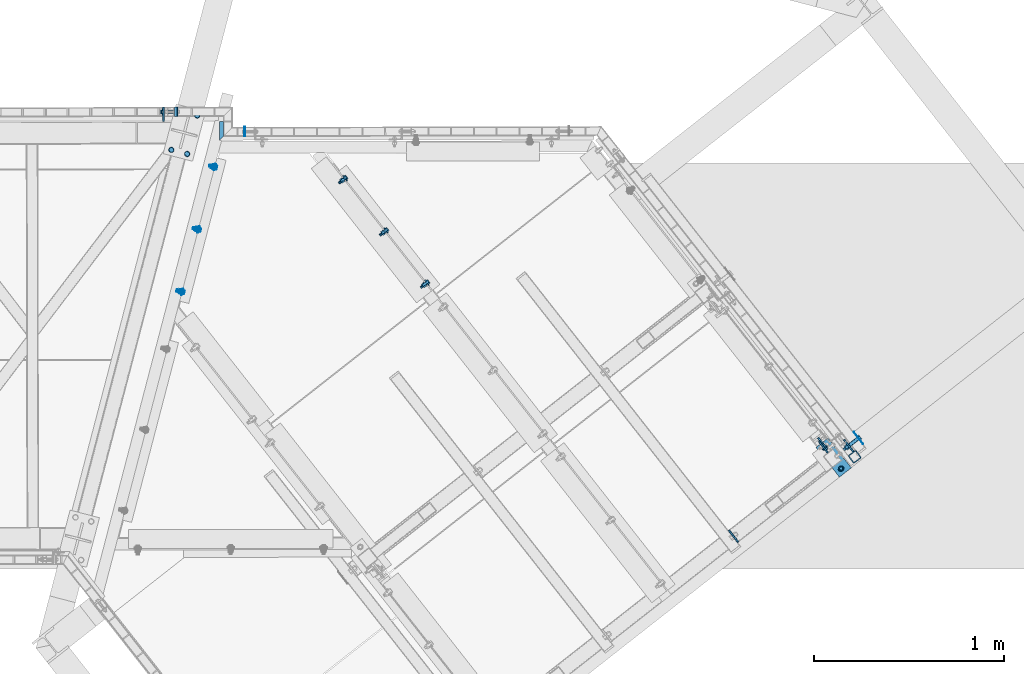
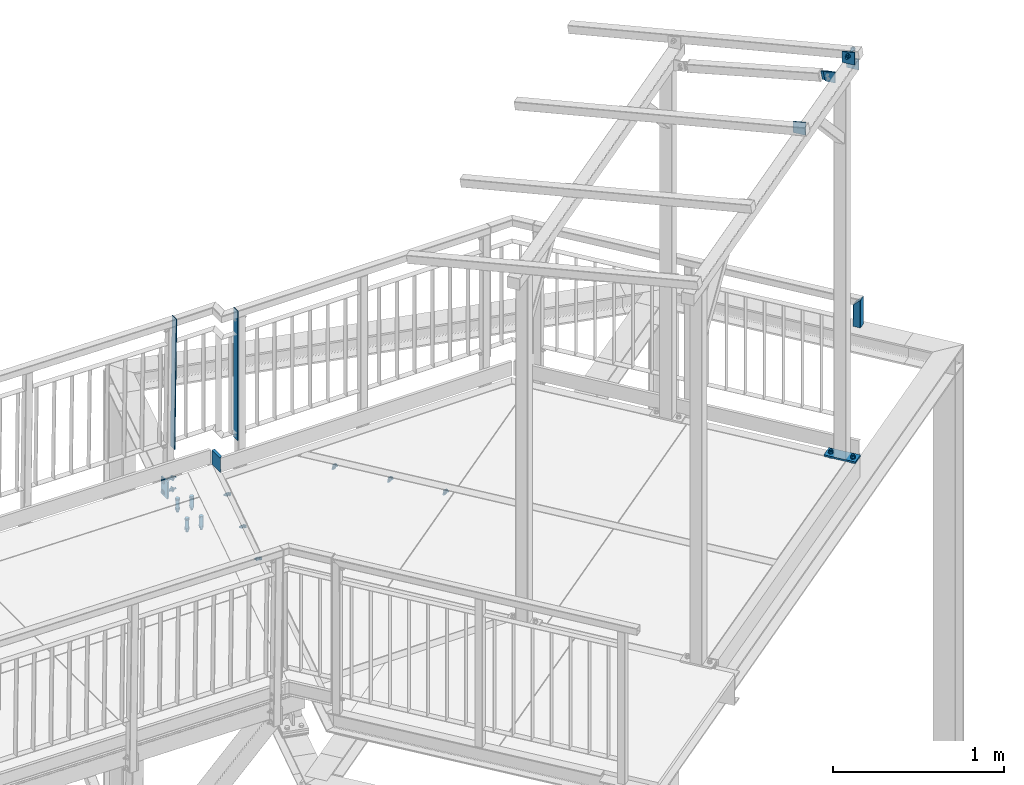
# One storey, part 127 of 169: 11 discrete accessories, 6 mechanical fasteners, 9 elements without a shape of their own.
"""IFC2X3 building model written with IfcOpenShell, lengths in millimetres."""

import ifcopenshell
import ifcopenshell.guid

model = None  # the IFC model being written
_history = None  # IfcOwnerHistory: only IFC2X3 demands one
_inside = {}  # id of a spatial element -> (the spatial element, [elements in it])
_under = {}  # id of a project, library or spatial element -> (it, [spatial elements below it])
_declared = {}  # id of a project -> (the project, [libraries it declares])
_typed = {}  # id of a type object -> (the type object, [elements of that type])
_made_of = {}  # id of a material, layer set ... -> (it, [elements and type objects made of it])


def new_model(schema):
    """Start an empty IFC model of exactly this schema.

    Asked for "IFC4X3", IfcOpenShell would pick the latest addendum, in which some entities
    have other attributes; the version numbers below select the first issue.
    IFC2X3 requires an IfcOwnerHistory on every rooted entity: one is made here for all.
    """
    global model, _history
    if schema == "IFC4X3":
        model = ifcopenshell.file(schema_version=(4, 3, 0, 0))
    else:
        model = ifcopenshell.file(schema=schema)
    _inside.clear()
    _under.clear()
    _declared.clear()
    _typed.clear()
    _made_of.clear()
    _history = None
    if model.schema == "IFC2X3":
        org = make("IfcOrganization", Name="unknown")
        user = make(
            "IfcPersonAndOrganization",
            ThePerson=make("IfcPerson", FamilyName="unknown"),
            TheOrganization=org,
        )
        app = make(
            "IfcApplication",
            ApplicationDeveloper=org,
            Version="unknown",
            ApplicationFullName="unknown",
            ApplicationIdentifier="unknown",
        )
        _history = make(
            "IfcOwnerHistory",
            OwningUser=user,
            OwningApplication=app,
            ChangeAction="ADDED",
            CreationDate=0,
        )
    return model


def make(cls, **values):
    """One entity of the class cls with the attributes given. An attribute that is None is left unset."""
    return model.create_entity(
        cls, **{name: value for name, value in values.items() if value is not None}
    )


def rooted(cls, **values):
    """An entity with a GlobalId (a new one), such as an element, a storey or a relation."""
    return make(cls, GlobalId=ifcopenshell.guid.new(), OwnerHistory=_history, **values)


def si_unit(unit_type, name, prefix=None):
    """IfcSIUnit, for example si_unit("LENGTHUNIT", "METRE", prefix="MILLI")."""
    return make("IfcSIUnit", UnitType=unit_type, Prefix=prefix, Name=name)


def assignment(units):
    """IfcUnitAssignment: the units of a project."""
    return None if units is None else make("IfcUnitAssignment", Units=units)


def point(xyz):
    """IfcCartesianPoint."""
    return None if xyz is None else make("IfcCartesianPoint", Coordinates=xyz)


def direction(xyz):
    """IfcDirection."""
    return None if xyz is None else make("IfcDirection", DirectionRatios=xyz)


def frame(location, z_axis=None, x_axis=None):
    """IfcAxis2Placement3D, a coordinate frame: its origin and axes. An axis left out is left unset."""
    return make(
        "IfcAxis2Placement3D",
        Location=point(location),
        Axis=direction(z_axis),
        RefDirection=direction(x_axis),
    )


def frame_2d(location, x_axis=None):
    """IfcAxis2Placement2D, a coordinate frame in the plane: its origin and x axis."""
    return make(
        "IfcAxis2Placement2D", Location=point(location), RefDirection=direction(x_axis)
    )


def origin_with_axes():
    """The frame at (0, 0, 0) with the z axis (0, 0, 1) and the x axis (1, 0, 0) written out."""
    return frame((0.0, 0.0, 0.0), z_axis=(0.0, 0.0, 1.0), x_axis=(1.0, 0.0, 0.0))


def origin_2d_with_axis():
    """The frame at (0, 0) in the plane with the x axis (1, 0) written out."""
    return frame_2d((0.0, 0.0), x_axis=(1.0, 0.0))


def place(relative_to, where):
    """IfcLocalPlacement: puts the frame where relative to a parent placement (None: the world)."""
    return make(
        "IfcLocalPlacement", PlacementRelTo=relative_to, RelativePlacement=where
    )


def context(
    kind, dimensions, precision=None, world=None, true_north=None, identifier=None
):
    """IfcGeometricRepresentationContext, for example the 3D "Model" context."""
    return make(
        "IfcGeometricRepresentationContext",
        ContextIdentifier=identifier,
        ContextType=kind,
        CoordinateSpaceDimension=dimensions,
        Precision=precision,
        WorldCoordinateSystem=world,
        TrueNorth=true_north,
    )


def subcontext(parent, identifier, kind, view, scale=None):
    """IfcGeometricRepresentationSubContext, for example "Body" below "Model"."""
    return make(
        "IfcGeometricRepresentationSubContext",
        ContextIdentifier=identifier,
        ContextType=kind,
        ParentContext=parent,
        TargetScale=scale,
        TargetView=view,
    )


def project(units=None, contexts=None):
    """IfcProject with its units and contexts."""
    return rooted(
        "IfcProject",
        Name="project",
        RepresentationContexts=contexts,
        UnitsInContext=assignment(units),
    )


def spatial(cls, under=None, at=None, **own):
    """A site, building, storey or space (cls), placed at a placement, below another one or the project."""
    s = rooted(cls, ObjectPlacement=at, **own)
    if under is not None:
        _under.setdefault(under.id(), (under, []))[1].append(s)
    return s


def polyline(points):
    """IfcPolyline through the points."""
    return make("IfcPolyline", Points=[point(p) for p in points])


def circle_curve(where, radius):
    """IfcCircle in the frame where."""
    return make("IfcCircle", Position=where, Radius=radius)


def parameter(value):
    """IfcParameterValue: where a trimmed curve begins or ends, as a parameter of its basis curve."""
    return model.create_entity("IfcParameterValue", value)


def trimmed(basis, trim1, trim2, sense, master):
    """IfcTrimmedCurve: the piece of a basis curve between two trims."""
    return make(
        "IfcTrimmedCurve",
        BasisCurve=basis,
        Trim1=trim1,
        Trim2=trim2,
        SenseAgreement=sense,
        MasterRepresentation=master,
    )


def segment(curve, same_sense, transition):
    """IfcCompositeCurveSegment."""
    return make(
        "IfcCompositeCurveSegment",
        Transition=transition,
        SameSense=same_sense,
        ParentCurve=curve,
    )


def composite_curve(segments, self_intersect=None):
    """IfcCompositeCurve: segments joined end to end."""
    return make("IfcCompositeCurve", Segments=segments, SelfIntersect=self_intersect)


def profile(cls, at=None, kind="AREA", **sizes):
    """A parametric profile (cls). Its sizes go by their IFC names, for example OverallWidth=200.0."""
    return make(cls, ProfileType=kind, Position=at, **sizes)


def hollow_rectangle(**sizes):
    """IfcRectangleHollowProfileDef."""
    return profile("IfcRectangleHollowProfileDef", **sizes)


def circle(**sizes):
    """IfcCircleProfileDef."""
    return profile("IfcCircleProfileDef", **sizes)


def u_section(**sizes):
    """IfcUShapeProfileDef."""
    return profile("IfcUShapeProfileDef", **sizes)


def outline(outer, holes=None, kind="AREA"):
    """IfcArbitraryClosedProfileDef: a profile drawn as a closed curve; with holes, ...WithVoids."""
    if holes is None:
        return make("IfcArbitraryClosedProfileDef", ProfileType=kind, OuterCurve=outer)
    return make(
        "IfcArbitraryProfileDefWithVoids",
        ProfileType=kind,
        OuterCurve=outer,
        InnerCurves=holes,
    )


def extrude(swept, where, along, depth):
    """IfcExtrudedAreaSolid: the profile swept, set in the frame where, extruded along a direction by depth."""
    return make(
        "IfcExtrudedAreaSolid",
        SweptArea=swept,
        Position=where,
        ExtrudedDirection=direction(along),
        Depth=depth,
    )


def clip(a, b, op="DIFFERENCE"):
    """IfcBooleanClippingResult: the solid a cut by the half space b."""
    return make(
        "IfcBooleanClippingResult", Operator=op, FirstOperand=a, SecondOperand=b
    )


def halfspace(plane, agree):
    """IfcHalfSpaceSolid: all space on one side of the plane z = 0 of the frame plane."""
    return make(
        "IfcHalfSpaceSolid",
        BaseSurface=make("IfcPlane", Position=plane),
        AgreementFlag=agree,
    )


def shape(context_of_items, identifier, shape_type, items):
    """IfcShapeRepresentation: the items that make up one representation, for example the "Body"."""
    return make(
        "IfcShapeRepresentation",
        ContextOfItems=context_of_items,
        RepresentationIdentifier=identifier,
        RepresentationType=shape_type,
        Items=items,
    )


def source(mapping_origin, context_of_items, identifier, shape_type, items):
    """IfcRepresentationMap: a shape defined once, which mapped items show again and again."""
    return make(
        "IfcRepresentationMap",
        MappingOrigin=mapping_origin,
        MappedRepresentation=shape(context_of_items, identifier, shape_type, items),
    )


def transform(
    local_origin,
    x_axis=None,
    y_axis=None,
    z_axis=None,
    scale=None,
    scale2=None,
    scale3=None,
    uniform=True,
):
    """IfcCartesianTransformationOperator3D, or its non-uniform kind. x_axis, y_axis, z_axis: its Axis1, 2, 3."""
    if uniform:
        return make(
            "IfcCartesianTransformationOperator3D",
            Axis1=direction(x_axis),
            Axis2=direction(y_axis),
            LocalOrigin=point(local_origin),
            Scale=scale,
            Axis3=direction(z_axis),
        )
    return make(
        "IfcCartesianTransformationOperator3DnonUniform",
        Axis1=direction(x_axis),
        Axis2=direction(y_axis),
        LocalOrigin=point(local_origin),
        Scale=scale,
        Axis3=direction(z_axis),
        Scale2=scale2,
        Scale3=scale3,
    )


def mapped(mapping_source, mapping_target):
    """IfcMappedItem: shows the shape of a source again, moved by a transform."""
    return make(
        "IfcMappedItem", MappingSource=mapping_source, MappingTarget=mapping_target
    )


def material(Name=None, Category=None):
    """IfcMaterial."""
    return make("IfcMaterial", Name=Name, Category=Category)


def made_of(thing, what):
    """Note that an element or type object is made of a material, layer set ...; save() writes the relation."""
    if what is not None:
        _made_of.setdefault(what.id(), (what, []))[1].append(thing)
    return thing


def type_object(cls, material=None, **own):
    """A type object (cls), such as IfcWallType, which elements share."""
    return made_of(rooted(cls, **own), material)


def element(
    cls,
    number,
    at=None,
    inside=None,
    cuts=None,
    type_object=None,
    material=None,
    context=None,
    identifier="Body",
    shape_type=None,
    held_by="IfcProductDefinitionShape",
    body=None,
    shapes=None,
    **own,
):
    """One element of the class cls, such as IfcWall. Its Tag is "e" and its number.

    at: its placement. inside: the storey or other place that contains it. cuts: it is an
    opening in that element (IfcRelVoidsElement). A single representation is given by context,
    identifier, shape_type and body (its items); several are given by shapes. held_by: the class
    of the entity that holds the representations. save() writes the other relations.
    """
    e = rooted(cls, Tag="e%d" % number, ObjectPlacement=at, **own)
    if body is not None:
        shapes = [shape(context, identifier, shape_type, body)]
    if shapes is not None:
        e.Representation = make(held_by, Representations=shapes)
    if inside is not None:
        _inside.setdefault(inside.id(), (inside, []))[1].append(e)
    if cuts is not None:
        rooted(
            "IfcRelVoidsElement", RelatingBuildingElement=cuts, RelatedOpeningElement=e
        )
    if type_object is not None:
        _typed.setdefault(type_object.id(), (type_object, []))[1].append(e)
    return made_of(e, material)


def aggregate(whole, parts):
    """IfcRelAggregates: a whole, such as a stair, and the parts it consists of."""
    return rooted("IfcRelAggregates", RelatingObject=whole, RelatedObjects=parts)


def save(model, path):
    """Write the relations noted so far, then the file.

    IfcRelAggregates (storeys below a building ...), IfcRelContainedInSpatialStructure (elements
    in a storey), IfcRelDefinesByType, IfcRelAssociatesMaterial and IfcRelDeclares: one each for
    every whole, place, type object, material and project.
    """
    for whole, parts in _under.values():
        aggregate(whole, parts)
    for where, things in _inside.values():
        rooted(
            "IfcRelContainedInSpatialStructure",
            RelatedElements=things,
            RelatingStructure=where,
        )
    for kind, things in _typed.values():
        rooted("IfcRelDefinesByType", RelatedObjects=things, RelatingType=kind)
    for what, things in _made_of.values():
        rooted("IfcRelAssociatesMaterial", RelatedObjects=things, RelatingMaterial=what)
    for by, libraries in _declared.values():
        rooted("IfcRelDeclares", RelatingContext=by, RelatedDefinitions=libraries)
    model.write(path)


model = new_model("IFC2X3")

# Units and contexts
model_context = context("Model", 3, precision=1e-05, world=origin_with_axes())
body_context = subcontext(model_context, "Body", "Model", "MODEL_VIEW")
ifc_project = project(units=[si_unit("LENGTHUNIT", "METRE", prefix="MILLI"), si_unit("AREAUNIT", "SQUARE_METRE"), si_unit("VOLUMEUNIT", "CUBIC_METRE"), si_unit("MASSUNIT", "GRAM", prefix="KILO"), si_unit("TIMEUNIT", "SECOND"), si_unit("PLANEANGLEUNIT", "RADIAN"), si_unit("SOLIDANGLEUNIT", "STERADIAN"), si_unit("THERMODYNAMICTEMPERATUREUNIT", "DEGREE_CELSIUS"), si_unit("LUMINOUSINTENSITYUNIT", "LUMEN")], contexts=[model_context])

# Site, building, storey
site_placement = place(None, origin_with_axes())
site = spatial("IfcSite", under=ifc_project, at=site_placement, Name="Undefined", CompositionType="ELEMENT")
building_placement = place(site_placement, origin_with_axes())
building = spatial("IfcBuilding", under=site, at=building_placement, Name="Undefined", CompositionType="ELEMENT")
storey_placement = place(building_placement, origin_with_axes())
storey = spatial("IfcBuildingStorey", under=building, at=storey_placement, Name="Undefined", CompositionType="ELEMENT", Elevation=0.0)

# Assembly, discrete accessory
assembly_1_placement = place(storey_placement, origin_with_axes())
assembly_1 = element("IfcElementAssembly", 1, at=assembly_1_placement, inside=storey, Name="Steel Assembly", AssemblyPlace="NOTDEFINED", PredefinedType="RIGID_FRAME")
ifc_material_1 = material(Name="STEEL/S235")
discrete_accessory_type_1 = type_object("IfcDiscreteAccessoryType", Name="BLACHA")
discrete_accessory_1_placement = place(assembly_1_placement, frame((18887.2000441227, 2340.23979561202, 13714.0845956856), z_axis=(0.9999174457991, 0.00186469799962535, -0.0127131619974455), x_axis=(-0.0018648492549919, 0.999998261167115, -4.2996762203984e-08)))
discrete_accessory_1 = element("IfcDiscreteAccessory", 2, at=discrete_accessory_1_placement, type_object=discrete_accessory_type_1, material=ifc_material_1, Name="BLACHA", ObjectType="BL10*120", context=body_context, shape_type="SweptSolid", body=[
    extrude(outline(polyline([(-5.35749222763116e-11, -59.9999999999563), (5.3567816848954e-11, 59.9999999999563), (75.0000002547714, 59.9999999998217), (75.0000002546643, -60.0000000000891), (-5.35749222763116e-11, -59.9999999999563)])), frame((-1.81898926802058e-12, -1.18000176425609e-16, -5.00000000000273), z_axis=(0.0, 0.0, 1.0), x_axis=(1.0, 0.0, 0.0)), (0.0, 0.0, 1.0), 10.0),
])
aggregate(assembly_1, [discrete_accessory_1])

# Assembly, discrete accessories
assembly_2_placement = place(storey_placement, origin_with_axes())
assembly_2 = element("IfcElementAssembly", 3, at=assembly_2_placement, inside=storey, Name="Steel Assembly", AssemblyPlace="NOTDEFINED", PredefinedType="RIGID_FRAME")
discrete_accessory_2_placement = place(assembly_2_placement, frame((18947.8099970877, 2415.35315881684, 13969.3328964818), z_axis=(-0.999917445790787, -0.00186469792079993, 0.0127131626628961), x_axis=(0.00186484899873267, -0.999998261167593, 4.28757666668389e-08)))
discrete_accessory_2 = element("IfcDiscreteAccessory", 4, at=discrete_accessory_2_placement, type_object=discrete_accessory_type_1, material=ifc_material_1, Name="BLACHA", ObjectType="BL5*50", context=body_context, shape_type="SweptSolid", body=[
    extrude(outline(polyline([(0.0, 0.0), (50.0000000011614, 3.27418092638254e-11), (50.0000000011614, 928.99999999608), (1.75657669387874e-06, 928.999999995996), (0.0, 0.0)])), frame((6.80888809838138e-19, -2.87858853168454e-21, -2.49999999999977), z_axis=(0.0, 0.0, 1.0), x_axis=(1.0, 0.0, 0.0)), (0.0, 0.0, 1.0), 5.0),
])
discrete_accessory_3_placement = place(assembly_2_placement, frame((19314.2063931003, 2310.53510697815, 13969.0826308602), z_axis=(-0.999998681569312, -0.00162384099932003, -2.17981851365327e-07), x_axis=(0.00162384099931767, -0.999998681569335, 1.10000109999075e-08)))
discrete_accessory_3 = element("IfcDiscreteAccessory", 5, at=discrete_accessory_3_placement, type_object=discrete_accessory_type_1, material=ifc_material_1, Name="BLACHA", ObjectType="BL5*50", context=body_context, shape_type="SweptSolid", body=[
    extrude(outline(polyline([(0.0, 0.0), (50.0000000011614, 3.27418092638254e-11), (50.0000000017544, 926.000000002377), (3.10365066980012e-08, 926.000000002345), (0.0, 0.0)])), frame((6.80888809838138e-19, -2.87858853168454e-21, -2.49999999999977), z_axis=(0.0, 0.0, 1.0), x_axis=(1.0, 0.0, 0.0)), (0.0, 0.0, 1.0), 5.0),
])

assembly_3_placement = place(storey_placement, origin_with_axes())
assembly_3 = element("IfcElementAssembly", 6, at=assembly_3_placement, inside=storey, Name="Steel Assembly", AssemblyPlace="NOTDEFINED", PredefinedType="RIGID_FRAME")
discrete_accessory_4_placement = place(assembly_3_placement, frame((22452.2278730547, 591.673954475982, 13802.4177777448), z_axis=(0.0, 0.0, 1.0), x_axis=(-0.7867732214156, -0.61724217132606, -1.0406294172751e-07)))
discrete_accessory_4 = element("IfcDiscreteAccessory", 7, at=discrete_accessory_4_placement, type_object=discrete_accessory_type_1, material=ifc_material_1, Name="BLACHA", ObjectType="BL12*200", context=body_context, shape_type="SweptSolid", body=[
    extrude(outline(polyline([(80.0, -100.00000000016), (-4.00177668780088e-11, -100.000000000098), (4.00177668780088e-11, 100.000000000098), (80.00000000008, 100.000000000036), (80.0, -100.00000000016)])), frame((-1.81898942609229e-12, -1.81898940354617e-12, -5.99999999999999), z_axis=(0.0, 0.0, 1.0), x_axis=(1.0, 0.0, 0.0)), (0.0, 0.0, 1.0), 12.0),
])
discrete_accessory_5_placement = place(assembly_3_placement, frame((22475.5309145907, 660.797179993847, 16540.2281754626), z_axis=(-0.7867732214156, -0.61724217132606, -1.0406294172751e-07), x_axis=(0.617242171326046, -0.786773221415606, 1.36000016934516e-07)))
discrete_accessory_5 = element("IfcDiscreteAccessory", 8, at=discrete_accessory_5_placement, type_object=discrete_accessory_type_1, material=ifc_material_1, Name="BLACHA", ObjectType="BL8*80", context=body_context, shape_type="SweptSolid", body=[
    extrude(outline(polyline([(0.0, 0.0), (80.0000000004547, 5.02041075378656e-10), (80.0000000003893, 89.9999999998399), (-2.08646997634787e-06, 77.0), (0.0, 0.0)])), frame((1.81942236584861e-12, -3.63797880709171e-12, -4.00000000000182), z_axis=(0.0, 0.0, 1.0), x_axis=(1.0, 0.0, 0.0)), (0.0, 0.0, 1.0), 8.0),
])
discrete_accessory_6_placement = place(assembly_3_placement, frame((21868.1419877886, 184.286223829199, 16540.2280951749), z_axis=(-0.7867732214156, -0.61724217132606, -1.0406294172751e-07), x_axis=(0.617242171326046, -0.786773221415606, 1.36000016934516e-07)))
discrete_accessory_6 = element("IfcDiscreteAccessory", 9, at=discrete_accessory_6_placement, type_object=discrete_accessory_type_1, material=ifc_material_1, Name="BLACHA", ObjectType="BL8*80", context=body_context, shape_type="SweptSolid", body=[
    extrude(outline(polyline([(0.0, 0.0), (80.0000000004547, 5.02041075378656e-10), (80.0000000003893, 89.9999999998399), (-2.08646997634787e-06, 77.0), (0.0, 0.0)])), frame((1.81942236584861e-12, -3.63797880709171e-12, -4.00000000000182), z_axis=(0.0, 0.0, 1.0), x_axis=(1.0, 0.0, 0.0)), (0.0, 0.0, 1.0), 8.0),
])

# Assembly, discrete accessory
assembly_4_placement = place(storey_placement, origin_with_axes())
assembly_4 = element("IfcElementAssembly", 10, at=assembly_4_placement, inside=storey, Name="Steel Assembly", AssemblyPlace="NOTDEFINED", PredefinedType="RIGID_FRAME")
discrete_accessory_7_placement = place(assembly_4_placement, frame((22380.5700340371, 618.208870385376, 16532.0863436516), z_axis=(0.786773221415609, 0.617242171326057, 0.0), x_axis=(0.111881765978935, -0.142611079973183, -0.983435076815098)))
discrete_accessory_7 = element("IfcDiscreteAccessory", 11, at=discrete_accessory_7_placement, type_object=discrete_accessory_type_1, material=ifc_material_1, Name="BLACHA", ObjectType="BL8*60", context=body_context, shape_type="SweptSolid", body=[
    extrude(outline(polyline([(0.0, 0.0), (60.0000000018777, -8.8220986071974e-11), (60.0000000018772, 69.999999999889), (1.4915713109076e-10, 69.9999999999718), (0.0, 0.0)])), frame((1.81942236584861e-12, -3.63797880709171e-12, -4.00000000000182), z_axis=(0.0, 0.0, 1.0), x_axis=(1.0, 0.0, 0.0)), (0.0, 0.0, 1.0), 8.0),
])
aggregate(assembly_4, [discrete_accessory_7])

# Discrete accessory
discrete_accessory_8_placement = place(assembly_3_placement, frame((22389.7726535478, 593.517792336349, 16539.2559338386), z_axis=(0.786773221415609, 0.617242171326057, 0.0), x_axis=(-2.54700353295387e-10, 0.0, -1.0)))
discrete_accessory_8 = element("IfcDiscreteAccessory", 12, at=discrete_accessory_8_placement, type_object=discrete_accessory_type_1, material=ifc_material_1, Name="BLACHA", ObjectType="BL8*75", context=body_context, shape_type="SweptSolid", body=[
    extrude(outline(polyline([(0.0, 0.0), (77.697319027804, 2.60843080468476e-09), (77.6973190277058, 62.949481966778), (13.7740383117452, 74.7314300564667), (0.0, 0.0)])), frame((1.81942236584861e-12, -3.63797880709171e-12, -4.00000000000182), z_axis=(0.0, 0.0, 1.0), x_axis=(1.0, 0.0, 0.0)), (0.0, 0.0, 1.0), 8.0),
])

discrete_accessory_9_placement = place(assembly_3_placement, frame((22576.4439343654, 638.284684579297, 16540.2281933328), z_axis=(-0.7867732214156, -0.61724217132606, -1.0406294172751e-07), x_axis=(-0.617242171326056, 0.786773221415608, 5.09999997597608e-08)))
discrete_accessory_9 = element("IfcDiscreteAccessory", 13, at=discrete_accessory_9_placement, type_object=discrete_accessory_type_1, material=ifc_material_1, Name="BLACHA", ObjectType="BL3*80", context=body_context, shape_type="SweptSolid", body=[
    extrude(outline(polyline([(0.0, 0.0), (80.0000000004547, 5.02041075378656e-10), (80.0000000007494, 80.0000000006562), (1.40171323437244e-08, 80.0000000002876), (0.0, 0.0)])), frame((1.81898940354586e-12, -1.77635442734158e-15, -1.50000000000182), z_axis=(0.0, 0.0, 1.0), x_axis=(1.0, 0.0, 0.0)), (0.0, 0.0, 1.0), 3.0),
])

discrete_accessory_type_2 = type_object("IfcDiscreteAccessoryType", Name="PORĘCZ")
discrete_accessory_10_placement = place(assembly_2_placement, frame((22531.6871376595, 571.395786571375, 14695.4177971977), z_axis=(0.0, 0.0, 1.0), x_axis=(-0.7867732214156, -0.61724217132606, -1.0406294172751e-07)))
discrete_accessory_10 = element("IfcDiscreteAccessory", 14, at=discrete_accessory_10_placement, type_object=discrete_accessory_type_2, material=ifc_material_1, Name="PORĘCZ", ObjectType="RHS50*3", context=body_context, shape_type="Clipping", body=[
    clip(extrude(hollow_rectangle(XDim=50.0, YDim=50.0, WallThickness=3.0, InnerFilletRadius=3.0, OuterFilletRadius=6.0, at=origin_2d_with_axis()), frame((-5.30057401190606e-21, 2.65028700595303e-21, 200.250024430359), z_axis=(-2.54700353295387e-10, 0.0, -1.0), x_axis=(0.0, 1.0, 0.0)), (0.0, 0.0, 1.0), 200.25), halfspace(frame((-3.71001078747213e-08, 25.00000000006, 200.000000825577), z_axis=(1.56689858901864e-10, 0.707106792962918, -0.707106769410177), x_axis=(-1.0, -3.46944695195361e-18, -1.38777878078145e-17)), True)),
])

aggregate(assembly_2, [discrete_accessory_2, discrete_accessory_3, discrete_accessory_10])

# Assembly, mechanical fastener
assembly_5_placement = place(storey_placement, origin_with_axes())
assembly_5 = element("IfcElementAssembly", 15, at=assembly_5_placement, inside=storey, Name="Steel Assembly", AssemblyPlace="NOTDEFINED", PredefinedType="RIGID_FRAME")
ifc_material_2 = material(Name="Undefined")
discrete_accessory_type_3 = type_object("IfcDiscreteAccessoryType", Name="Bolt assembly")
shared_shape_1 = source(origin_with_axes(), body_context, "Body", "SweptSolid", [
    extrude(circle(Radius=9.0, at=origin_2d_with_axis()), frame((0.0, -4.90000000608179, 0.0), z_axis=(0.0, 1.0, 0.0), x_axis=(1.0, 0.0, 0.0)), (0.0, 0.0, 1.0), 10.0),
    extrude(circle(Radius=9.0, at=origin_2d_with_axis()), frame((0.0, 4.89999999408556, 0.0), z_axis=(0.0, 1.0, 0.0), x_axis=(1.0, 0.0, 0.0)), (0.0, 0.0, 1.0), 50.1),
    extrude(outline(polyline([(10.39230484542, 0.0), (5.19615242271, 9.00000000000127), (-5.19615242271, 9.00000000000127), (-10.39230484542, 0.0), (-5.19615242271, -9.00000000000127), (5.19615242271, -9.00000000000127), (10.39230484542, 0.0)])), frame((0.0, -15.5000000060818, 0.0), z_axis=(0.0, 1.0, 0.0), x_axis=(1.0, 0.0, 0.0)), (0.0, 0.0, 1.0), 7.5),
    extrude(circle(Radius=6.0, at=origin_2d_with_axis()), frame((0.0, -8.00000000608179, 0.0), z_axis=(0.0, 1.0, 0.0), x_axis=(1.0, 0.0, 0.0)), (0.0, 0.0, 1.0), 90.0),
    extrude(circle(Radius=18.5, at=origin_2d_with_axis()), frame((0.0, -8.00000000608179, 0.0), z_axis=(0.0, 1.0, 0.0), x_axis=(1.0, 0.0, 0.0)), (0.0, 0.0, 1.0), 3.0),
    extrude(circle(Radius=18.5, at=origin_2d_with_axis()), frame((0.0, 54.9999999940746, 0.0), z_axis=(0.0, 1.0, 0.0), x_axis=(1.0, 0.0, 0.0)), (0.0, 0.0, 1.0), 3.0),
    extrude(outline(polyline([(10.96965511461, 0.0), (5.484827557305, 9.50000000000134), (-5.484827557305, 9.50000000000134), (-10.96965511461, 0.0), (-5.484827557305, -9.50000000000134), (5.484827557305, -9.50000000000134), (10.96965511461, 0.0)])), frame((0.0, 57.9999999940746, 0.0), z_axis=(0.0, 1.0, 0.0), x_axis=(1.0, 0.0, 0.0)), (0.0, 0.0, 1.0), 10.0),
])
mechanical_fastener_1_placement = place(assembly_5_placement, frame((18887.1131582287, 2390.23972797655, 13714.584553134), z_axis=(0.012712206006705, 0.000523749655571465, 0.999919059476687), x_axis=(0.00187120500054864, -0.999998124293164, 0.00050000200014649)))
mechanical_fastener_1 = element("IfcMechanicalFastener", 16, at=mechanical_fastener_1_placement, type_object=discrete_accessory_type_3, material=ifc_material_2, Name="Bolt assembly", NominalDiameter=12.0, NominalLength=90.0, context=body_context, shape_type="MappedRepresentation", body=[
    mapped(shared_shape_1, transform((-1.15463194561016e-14, 5.45696821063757e-11, -39.9999999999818))),
    mapped(shared_shape_1, transform((8.88178419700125e-15, -5.54791768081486e-11, 39.99999999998))),
])
aggregate(assembly_5, [mechanical_fastener_1])

assembly_6_placement = place(storey_placement, origin_with_axes())
assembly_6 = element("IfcElementAssembly", 17, at=assembly_6_placement, inside=storey, Name="Steel Assembly", AssemblyPlace="NOTDEFINED", PredefinedType="RIGID_FRAME")
shared_shape_2 = source(origin_with_axes(), body_context, "Body", "SweptSolid", [
    extrude(circle(Radius=13.0, at=origin_2d_with_axis()), frame((0.0, 0.100000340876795, 0.0), z_axis=(0.0, 1.0, 0.0), x_axis=(1.0, 0.0, 0.0)), (0.0, 0.0, 1.0), 15.0),
    extrude(circle(Radius=13.0, at=origin_2d_with_axis()), frame((0.0, 14.9999935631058, 0.0), z_axis=(0.0, 1.0, 0.0), x_axis=(1.0, 0.0, 0.0)), (0.0, 0.0, 1.0), 15.0),
    extrude(circle(Radius=13.0, at=origin_2d_with_axis()), frame((0.0, 29.9999930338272, 0.0), z_axis=(0.0, 1.0, 0.0), x_axis=(1.0, 0.0, 0.0)), (0.0, 0.0, 1.0), 5.0),
    extrude(circle(Radius=13.0, at=origin_2d_with_axis()), frame((0.0, 34.9999929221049, 0.0), z_axis=(0.0, 1.0, 0.0), x_axis=(1.0, 0.0, 0.0)), (0.0, 0.0, 1.0), 5.0),
    extrude(circle(Radius=13.0, at=origin_2d_with_axis()), frame((0.0, 39.9999928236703, 0.0), z_axis=(0.0, 1.0, 0.0), x_axis=(1.0, 0.0, 0.0)), (0.0, 0.0, 1.0), 5.0),
    extrude(circle(Radius=13.0, at=origin_2d_with_axis()), frame((0.0, 44.6892662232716, 0.0), z_axis=(0.0, 1.0, 0.0), x_axis=(1.0, 0.0, 0.0)), (0.0, 0.0, 1.0), 12.1),
    extrude(outline(polyline([(13.85640646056, 0.0), (6.92820323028, 12.0000000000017), (-6.92820323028, 12.0000000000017), (-13.85640646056, 0.0), (-6.92820323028, -12.0000000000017), (6.92820323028, -12.0000000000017), (13.85640646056, 0.0)])), frame((0.0, -13.0000060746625, 0.0), z_axis=(0.0, 1.0, 0.0), x_axis=(1.0, 0.0, 0.0)), (0.0, 0.0, 1.0), 10.0),
    extrude(circle(Radius=8.0, at=origin_2d_with_axis()), frame((0.0, -3.00000607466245, 0.0), z_axis=(0.0, 1.0, 0.0), x_axis=(1.0, 0.0, 0.0)), (0.0, 0.0, 1.0), 90.0),
    extrude(circle(Radius=15.0, at=origin_2d_with_axis()), frame((0.0, -3.00000607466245, 0.0), z_axis=(0.0, 1.0, 0.0), x_axis=(1.0, 0.0, 0.0)), (0.0, 0.0, 1.0), 3.0),
    extrude(circle(Radius=15.0, at=origin_2d_with_axis()), frame((0.0, 56.7892662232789, 0.0), z_axis=(0.0, 1.0, 0.0), x_axis=(1.0, 0.0, 0.0)), (0.0, 0.0, 1.0), 3.0),
    extrude(outline(polyline([(13.85640646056, 0.0), (6.92820323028, 12.0000000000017), (-6.92820323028, 12.0000000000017), (-13.85640646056, 0.0), (-6.92820323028, -12.0000000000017), (6.92820323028, -12.0000000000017), (13.85640646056, 0.0)])), frame((0.0, 59.7892662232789, 0.0), z_axis=(0.0, 1.0, 0.0), x_axis=(1.0, 0.0, 0.0)), (0.0, 0.0, 1.0), 13.0),
])
mechanical_fastener_2_placement = place(assembly_6_placement, frame((19037.7878217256, 2269.57147753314, 13585.2064065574), z_axis=(-0.252628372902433, -0.967563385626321, 0.0), x_axis=(-0.967563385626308, 0.252628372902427, -1.72000000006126e-07)))
mechanical_fastener_2 = element("IfcMechanicalFastener", 18, at=mechanical_fastener_2_placement, type_object=discrete_accessory_type_3, material=ifc_material_2, Name="Bolt assembly", NominalDiameter=16.0, NominalLength=90.0, context=body_context, shape_type="MappedRepresentation", body=[
    mapped(shared_shape_2, transform((-3.63797880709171e-12, 4.00177668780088e-11, -104.999999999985))),
    mapped(shared_shape_2, transform((86.0000000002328, -2.45563569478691e-10, -104.999999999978))),
    mapped(shared_shape_2, transform((7.27595761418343e-12, -4.18367562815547e-11, 104.999999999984))),
    mapped(shared_shape_2, transform((86.0000000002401, -3.27418092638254e-10, 104.999999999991))),
])
aggregate(assembly_6, [mechanical_fastener_2])

# Assembly, discrete accessory
assembly_7_placement = place(storey_placement, origin_with_axes())
assembly_7 = element("IfcElementAssembly", 19, at=assembly_7_placement, inside=storey, Name="Steel Assembly", AssemblyPlace="NOTDEFINED", PredefinedType="RIGID_FRAME")
ifc_material_3 = material(Name="STEEL/S235JR")
discrete_accessory_type_4 = type_object("IfcDiscreteAccessoryType", Name="KICK_PLATE")
discrete_accessory_11_placement = place(assembly_7_placement, frame((19192.5287873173, 2240.33700210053, 13850.4171753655), z_axis=(0.0, 0.0, 1.0), x_axis=(-0.00172596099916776, 0.999998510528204, -4.30000000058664e-08)))
discrete_accessory_11 = element("IfcDiscreteAccessory", 20, at=discrete_accessory_11_placement, type_object=discrete_accessory_type_4, material=ifc_material_3, Name="KICK_PLATE", ObjectType="C100*20*2", context=body_context, shape_type="Clipping", body=[
    clip(extrude(u_section(Depth=100.0, FlangeWidth=20.0, WebThickness=2.0, FlangeThickness=2.0, FilletRadius=3.0, at=origin_2d_with_axis()), frame((99.9999999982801, 3.63798853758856e-12, 1.8189894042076e-12), z_axis=(-1.0, -3.46944695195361e-18, -1.38777878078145e-17), x_axis=(1.73472347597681e-18, -1.0, 0.0)), (0.0, 0.0, 1.0), 100.17), halfspace(frame((19.9989812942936, -10.0000000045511, -5.02041075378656e-10), z_axis=(-0.707142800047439, -0.707070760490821, 2.02555520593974e-10), x_axis=(-2.54700353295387e-10, 0.0, -1.0)), False)),
])
aggregate(assembly_7, [discrete_accessory_11])

# Assembly, mechanical fastener
assembly_8_placement = place(storey_placement, origin_with_axes())
assembly_8 = element("IfcElementAssembly", 21, at=assembly_8_placement, inside=storey, Name="Steel Assembly", AssemblyPlace="NOTDEFINED", PredefinedType="RIGID_FRAME")
shared_shape_3 = source(origin_with_axes(), body_context, "Body", "SweptSolid", [
    extrude(circle(Radius=7.5, at=origin_2d_with_axis()), frame((0.0, 2.84017219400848, 0.0), z_axis=(0.0, 1.0, 0.0), x_axis=(1.0, 0.0, 0.0)), (0.0, 0.0, 1.0), 7.1),
    extrude(outline(composite_curve([segment(polyline([(-10.0, 7.5), (10.0, 7.5)]), True, "CONTINUOUS"), segment(trimmed(circle_curve(frame_2d((10.0, 0.0), x_axis=(0.0, 1.0)), 7.5), [parameter(0.0)], [parameter(3.14159265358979)], False, "PARAMETER"), True, "CONTINUOUS"), segment(polyline([(10.0, -7.5), (-10.0, -7.5)]), True, "CONTINUOUS"), segment(trimmed(circle_curve(frame_2d((-10.0, 0.0), x_axis=(0.0, -1.0)), 7.5), [parameter(0.0)], [parameter(3.14159265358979)], False, "PARAMETER"), True, "DISCONTINUOUS")], self_intersect=False)), frame((0.0, 0.100000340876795, 0.0), z_axis=(0.0, 1.0, 0.0), x_axis=(1.0, 0.0, 0.0)), (0.0, 0.0, 1.0), 3.0),
    extrude(outline(polyline([(10.39230484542, 0.0), (5.19615242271, 9.00000000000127), (-5.19615242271, 9.00000000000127), (-10.39230484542, 0.0), (-5.19615242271, -9.00000000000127), (5.19615242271, -9.00000000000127), (10.39230484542, 0.0)])), frame((0.0, -10.4999989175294, 0.0), z_axis=(0.0, 1.0, 0.0), x_axis=(1.0, 0.0, 0.0)), (0.0, 0.0, 1.0), 7.5),
    extrude(circle(Radius=6.0, at=origin_2d_with_axis()), frame((0.0, -3.00000607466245, 0.0), z_axis=(0.0, 1.0, 0.0), x_axis=(1.0, 0.0, 0.0)), (0.0, 0.0, 1.0), 35.0),
    extrude(circle(Radius=12.0, at=origin_2d_with_axis()), frame((0.0, -3.00000607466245, 0.0), z_axis=(0.0, 1.0, 0.0), x_axis=(1.0, 0.0, 0.0)), (0.0, 0.0, 1.0), 3.0),
    extrude(circle(Radius=12.0, at=origin_2d_with_axis()), frame((0.0, 9.94017219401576, 0.0), z_axis=(0.0, 1.0, 0.0), x_axis=(1.0, 0.0, 0.0)), (0.0, 0.0, 1.0), 3.0),
    extrude(outline(polyline([(10.96965511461, 0.0), (5.484827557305, 9.50000000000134), (-5.484827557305, 9.50000000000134), (-10.96965511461, 0.0), (-5.484827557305, -9.50000000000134), (5.484827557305, -9.50000000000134), (10.96965511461, 0.0)])), frame((0.0, 12.9401721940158, 0.0), z_axis=(0.0, 1.0, 0.0), x_axis=(1.0, 0.0, 0.0)), (0.0, 0.0, 1.0), 10.0),
])
mechanical_fastener_3_placement = place(assembly_8_placement, frame((18987.2007488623, 1439.9769740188, 13740.4179521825), z_axis=(0.0, 0.0, 1.0), x_axis=(0.252628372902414, 0.967563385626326, 0.0)))
mechanical_fastener_3 = element("IfcMechanicalFastener", 22, at=mechanical_fastener_3_placement, type_object=discrete_accessory_type_3, material=ifc_material_2, Name="Bolt assembly", NominalDiameter=12.0, NominalLength=35.0, context=body_context, shape_type="MappedRepresentation", body=[
    mapped(shared_shape_3, transform((0.0, 0.0, 0.0))),
    mapped(shared_shape_3, transform((339.999999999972, 4.00177668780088e-11, 3.63797880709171e-11))),
    mapped(shared_shape_3, transform((679.999999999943, 8.36735125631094e-11, 7.09405867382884e-11))),
])
aggregate(assembly_8, [mechanical_fastener_3])

assembly_9_placement = place(storey_placement, origin_with_axes())
assembly_9 = element("IfcElementAssembly", 23, at=assembly_9_placement, inside=storey, Name="Steel Assembly", AssemblyPlace="NOTDEFINED", PredefinedType="RIGID_FRAME")
shared_shape_4 = source(origin_with_axes(), body_context, "Body", "SweptSolid", [
    extrude(circle(Radius=7.5, at=origin_2d_with_axis()), frame((0.0, 2.94991391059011, 0.0), z_axis=(0.0, 1.0, 0.0), x_axis=(1.0, 0.0, 0.0)), (0.0, 0.0, 1.0), 7.0),
    extrude(outline(composite_curve([segment(polyline([(-10.0, 7.5), (10.0, 7.5)]), True, "CONTINUOUS"), segment(trimmed(circle_curve(frame_2d((10.0, 0.0), x_axis=(0.0, 1.0)), 7.5), [parameter(0.0)], [parameter(3.14159265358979)], False, "PARAMETER"), True, "CONTINUOUS"), segment(polyline([(10.0, -7.5), (-10.0, -7.5)]), True, "CONTINUOUS"), segment(trimmed(circle_curve(frame_2d((-10.0, 0.0), x_axis=(0.0, -1.0)), 7.5), [parameter(0.0)], [parameter(3.14159265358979)], False, "PARAMETER"), True, "DISCONTINUOUS")], self_intersect=False)), frame((0.0, 0.100000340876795, 0.0), z_axis=(0.0, 1.0, 0.0), x_axis=(1.0, 0.0, 0.0)), (0.0, 0.0, 1.0), 3.0),
    extrude(circle(Radius=7.5, at=origin_2d_with_axis()), frame((0.0, 9.84991653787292, 0.0), z_axis=(0.0, 1.0, 0.0), x_axis=(1.0, 0.0, 0.0)), (0.0, 0.0, 1.0), 5.1),
    extrude(outline(polyline([(10.39230484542, 0.0), (5.19615242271, 9.00000000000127), (-5.19615242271, 9.00000000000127), (-10.39230484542, 0.0), (-5.19615242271, -9.00000000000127), (5.19615242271, -9.00000000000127), (10.39230484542, 0.0)])), frame((0.0, -10.4999989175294, 0.0), z_axis=(0.0, 1.0, 0.0), x_axis=(1.0, 0.0, 0.0)), (0.0, 0.0, 1.0), 7.5),
    extrude(circle(Radius=6.0, at=origin_2d_with_axis()), frame((0.0, -3.00000607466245, 0.0), z_axis=(0.0, 1.0, 0.0), x_axis=(1.0, 0.0, 0.0)), (0.0, 0.0, 1.0), 45.0),
    extrude(circle(Radius=12.0, at=origin_2d_with_axis()), frame((0.0, -3.00000607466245, 0.0), z_axis=(0.0, 1.0, 0.0), x_axis=(1.0, 0.0, 0.0)), (0.0, 0.0, 1.0), 3.0),
    extrude(circle(Radius=12.0, at=origin_2d_with_axis()), frame((0.0, 14.9499165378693, 0.0), z_axis=(0.0, 1.0, 0.0), x_axis=(1.0, 0.0, 0.0)), (0.0, 0.0, 1.0), 3.0),
    extrude(outline(polyline([(10.96965511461, 0.0), (5.484827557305, 9.50000000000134), (-5.484827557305, 9.50000000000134), (-10.96965511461, 0.0), (-5.484827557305, -9.50000000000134), (5.484827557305, -9.50000000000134), (10.96965511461, 0.0)])), frame((0.0, 17.9499165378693, 0.0), z_axis=(0.0, 1.0, 0.0), x_axis=(1.0, 0.0, 0.0)), (0.0, 0.0, 1.0), 10.0),
])
mechanical_fastener_4_placement = place(assembly_9_placement, frame((20276.5906461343, 1490.32128362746, 13740.4179309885), z_axis=(0.0, 0.0, 1.0), x_axis=(-0.617242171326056, 0.786773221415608, 5.09999997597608e-08)))
mechanical_fastener_4 = element("IfcMechanicalFastener", 24, at=mechanical_fastener_4_placement, type_object=discrete_accessory_type_3, material=ifc_material_2, Name="Bolt assembly", NominalDiameter=12.0, NominalLength=45.0, context=body_context, shape_type="MappedRepresentation", body=[
    mapped(shared_shape_4, transform((0.0, 0.0, 0.0))),
    mapped(shared_shape_4, transform((350.000000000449, -1.43700162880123e-10, 1.19871401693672e-09))),
    mapped(shared_shape_4, transform((699.999999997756, 1.81898938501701e-12, -3.03576608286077e-16))),
])
aggregate(assembly_9, [mechanical_fastener_4])

# Mechanical fastener
shared_shape_5 = source(origin_with_axes(), body_context, "Body", "SweptSolid", [
    extrude(circle(Radius=9.5, at=origin_2d_with_axis()), frame((0.0, -11.3999999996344, 0.0), z_axis=(0.0, 1.0, 0.0), x_axis=(1.0, 0.0, 0.0)), (0.0, 0.0, 1.0), 10.0),
    extrude(outline(composite_curve([segment(polyline([(-7.5, 9.5), (7.5, 9.5)]), True, "CONTINUOUS"), segment(trimmed(circle_curve(frame_2d((7.5, 0.0), x_axis=(0.0, 1.0)), 9.5), [parameter(0.0)], [parameter(3.14159265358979)], False, "PARAMETER"), True, "CONTINUOUS"), segment(polyline([(7.5, -9.5), (-7.5, -9.5)]), True, "CONTINUOUS"), segment(trimmed(circle_curve(frame_2d((-7.5, 0.0), x_axis=(0.0, -1.0)), 9.5), [parameter(0.0)], [parameter(3.14159265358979)], False, "PARAMETER"), True, "DISCONTINUOUS")], self_intersect=False)), frame((0.0, -0.600000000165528, 0.0), z_axis=(0.0, 1.0, 0.0), x_axis=(1.0, 0.0, 0.0)), (0.0, 0.0, 1.0), 12.1),
    extrude(outline(polyline([(13.85640646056, 0.0), (6.92820323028, 12.0000000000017), (-6.92820323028, 12.0000000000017), (-13.85640646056, 0.0), (-6.92820323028, -12.0000000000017), (6.92820323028, -12.0000000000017), (13.85640646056, 0.0)])), frame((0.0, -24.4999999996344, 0.0), z_axis=(0.0, 1.0, 0.0), x_axis=(1.0, 0.0, 0.0)), (0.0, 0.0, 1.0), 10.0),
    extrude(circle(Radius=8.0, at=origin_2d_with_axis()), frame((0.0, -14.4999999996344, 0.0), z_axis=(0.0, 1.0, 0.0), x_axis=(1.0, 0.0, 0.0)), (0.0, 0.0, 1.0), 50.0),
    extrude(circle(Radius=15.0, at=origin_2d_with_axis()), frame((0.0, -14.4999999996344, 0.0), z_axis=(0.0, 1.0, 0.0), x_axis=(1.0, 0.0, 0.0)), (0.0, 0.0, 1.0), 3.0),
    extrude(circle(Radius=15.0, at=origin_2d_with_axis()), frame((0.0, 11.4999999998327, 0.0), z_axis=(0.0, 1.0, 0.0), x_axis=(1.0, 0.0, 0.0)), (0.0, 0.0, 1.0), 3.0),
    extrude(outline(polyline([(13.85640646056, 0.0), (6.92820323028, 12.0000000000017), (-6.92820323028, 12.0000000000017), (-13.85640646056, 0.0), (-6.92820323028, -12.0000000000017), (6.92820323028, -12.0000000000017), (13.85640646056, 0.0)])), frame((0.0, 14.4999999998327, 0.0), z_axis=(0.0, 1.0, 0.0), x_axis=(1.0, 0.0, 0.0)), (0.0, 0.0, 1.0), 13.0),
])
mechanical_fastener_5_placement = place(assembly_3_placement, frame((22393.2198823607, 545.380791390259, 13796.917769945), z_axis=(0.617242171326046, -0.786773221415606, 1.36000016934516e-07), x_axis=(0.786773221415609, 0.617242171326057, 0.0)))
mechanical_fastener_5 = element("IfcMechanicalFastener", 25, at=mechanical_fastener_5_placement, type_object=discrete_accessory_type_3, material=ifc_material_2, Name="Bolt assembly", NominalDiameter=16.0, NominalLength=50.0, context=body_context, shape_type="MappedRepresentation", body=[
    mapped(shared_shape_5, transform((29.9999999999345, -2.72848410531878e-11, -70.0000000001))),
    mapped(shared_shape_5, transform((30.0000000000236, 4.00177668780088e-11, 69.9999999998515))),
])

shared_shape_6 = source(origin_with_axes(), body_context, "Body", "SweptSolid", [
    extrude(circle(Radius=9.5, at=origin_2d_with_axis()), frame((0.0, -47.8999963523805, 0.0), z_axis=(0.0, 1.0, 0.0), x_axis=(1.0, 0.0, 0.0)), (0.0, 0.0, 1.0), 60.0),
    extrude(outline(composite_curve([segment(polyline([(9.5, 7.5), (9.5, -7.5)]), True, "CONTINUOUS"), segment(trimmed(circle_curve(frame_2d((0.0, -7.5), x_axis=(1.0, 0.0)), 9.5), [parameter(0.0)], [parameter(3.14159265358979)], False, "PARAMETER"), True, "CONTINUOUS"), segment(polyline([(-9.5, -7.5), (-9.5, 7.5)]), True, "CONTINUOUS"), segment(trimmed(circle_curve(frame_2d((0.0, 7.5), x_axis=(-1.0, 0.0)), 9.5), [parameter(0.0)], [parameter(3.14159265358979)], False, "PARAMETER"), True, "DISCONTINUOUS")], self_intersect=False)), frame((0.0, 11.899975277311, 0.0), z_axis=(0.0, 1.0, 0.0), x_axis=(1.0, 0.0, 0.0)), (0.0, 0.0, 1.0), 8.1),
    extrude(outline(polyline([(13.85640646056, 0.0), (6.92820323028, 12.0000000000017), (-6.92820323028, 12.0000000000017), (-13.85640646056, 0.0), (-6.92820323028, -12.0000000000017), (6.92820323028, -12.0000000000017), (13.85640646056, 0.0)])), frame((0.0, -60.9999963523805, 0.0), z_axis=(0.0, 1.0, 0.0), x_axis=(1.0, 0.0, 0.0)), (0.0, 0.0, 1.0), 10.0),
    extrude(circle(Radius=8.0, at=origin_2d_with_axis()), frame((0.0, -50.9999963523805, 0.0), z_axis=(0.0, 1.0, 0.0), x_axis=(1.0, 0.0, 0.0)), (0.0, 0.0, 1.0), 100.0),
    extrude(circle(Radius=15.0, at=origin_2d_with_axis()), frame((0.0, -50.9999963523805, 0.0), z_axis=(0.0, 1.0, 0.0), x_axis=(1.0, 0.0, 0.0)), (0.0, 0.0, 1.0), 3.0),
    extrude(circle(Radius=15.0, at=origin_2d_with_axis()), frame((0.0, 19.9999989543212, 0.0), z_axis=(0.0, 1.0, 0.0), x_axis=(1.0, 0.0, 0.0)), (0.0, 0.0, 1.0), 3.0),
    extrude(outline(polyline([(13.85640646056, 0.0), (6.92820323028, 12.0000000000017), (-6.92820323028, 12.0000000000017), (-13.85640646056, 0.0), (-6.92820323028, -12.0000000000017), (6.92820323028, -12.0000000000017), (13.85640646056, 0.0)])), frame((0.0, 22.9999989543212, 0.0), z_axis=(0.0, 1.0, 0.0), x_axis=(1.0, 0.0, 0.0)), (0.0, 0.0, 1.0), 13.0),
])
mechanical_fastener_6_placement = place(assembly_3_placement, frame((22512.8072062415, 639.204366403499, 16598.2254462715), z_axis=(4.23070098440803e-05, -5.39270125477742e-05, -0.999999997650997), x_axis=(0.617242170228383, -0.786773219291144, 6.8542000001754e-05)))
mechanical_fastener_6 = element("IfcMechanicalFastener", 26, at=mechanical_fastener_6_placement, type_object=discrete_accessory_type_3, material=ifc_material_2, Name="Bolt assembly", NominalDiameter=16.0, NominalLength=100.0, context=body_context, shape_type="MappedRepresentation", body=[
    mapped(shared_shape_6, transform((0.0, 0.0, 0.0))),
])

aggregate(assembly_3, [mechanical_fastener_5, discrete_accessory_4, mechanical_fastener_6, discrete_accessory_5, discrete_accessory_6, discrete_accessory_8, discrete_accessory_9])

save(model, "model.ifc")
